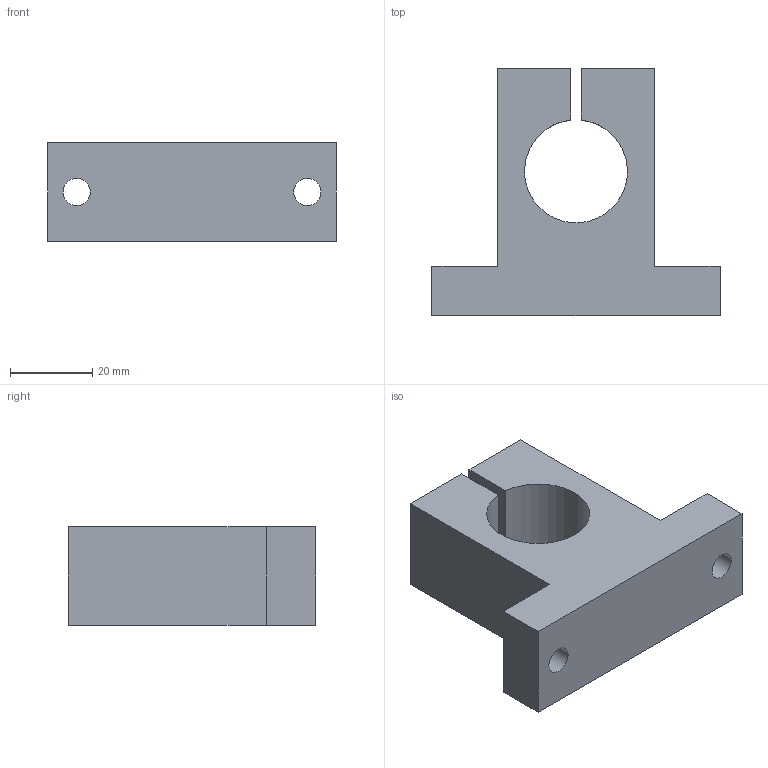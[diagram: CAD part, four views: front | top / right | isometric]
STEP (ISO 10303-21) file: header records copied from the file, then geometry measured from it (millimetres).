
FILE_DESCRIPTION( ( 'STEP AP203' ), '1' );
FILE_NAME( 'p:/temp/worker_4/temp/exporttempdir_2720_1187_1T3Iv/format_0/SK25.stp', '2020-05-08T01:32:47', ( 'License CC BY-ND 4.0' ), ( 'CADENAS' ), ' ', 'PARTsolutions', ' ' );
FILE_SCHEMA( ( 'CONFIG_CONTROL_DESIGN' ) );
Length unit declared in the file: millimetre
Products named in the file (1): _SK25
Bounding box: 70 x 60 x 24 mm (x, y, z)
Volume: 50582.7 mm3; surface area: 13252.3 mm2
Topology: 1 solids, 1 shells, 16 faces, 42 edges, 28 vertices
Faces by surface type: plane 13, cylinder 3
Full cylindrical faces by diameter (mm): 6.6 x2
Entity records: 534 total; most frequent: CARTESIAN_POINT 85, DIRECTION 80, ORIENTED_EDGE 80, EDGE_CURVE 40, LINE 34, VECTOR 34, VERTEX_POINT 28, AXIS2_PLACEMENT_3D 23
